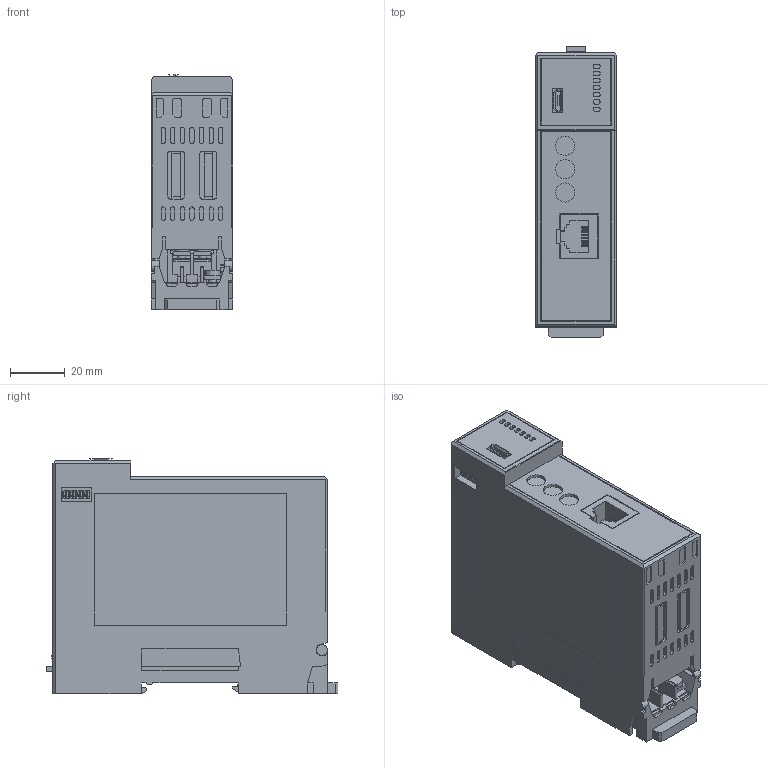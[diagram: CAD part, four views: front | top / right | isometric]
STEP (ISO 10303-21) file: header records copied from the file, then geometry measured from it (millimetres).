
FILE_DESCRIPTION (( 'STEP AP203' ), '1' );
FILE_NAME ('QMC1-MT_230518.STEP', '2023-05-18T07:48:13', ( '' ), ( '' ), 'SwSTEP 2.0', 'SolidWorks 2022', '' );
FILE_SCHEMA (( 'CONFIG_CONTROL_DESIGN' ));
Length unit declared in the file: millimetre
Products named in the file (1): QMC1-MT_230518
Bounding box: 29.8 x 106.35 x 85.95 mm (x, y, z)
Volume: 219867.4 mm3; surface area: 38934.9 mm2
Topology: 1 solids, 1 shells, 1185 faces, 3136 edges, 2062 vertices
Faces by surface type: plane 924, cylinder 257, torus 4
Entity records: 36366 total; most frequent: CARTESIAN_POINT 6489, ORIENTED_EDGE 6272, DIRECTION 5941, EDGE_CURVE 3136, LINE 2633, VECTOR 2633, VERTEX_POINT 2062, AXIS2_PLACEMENT_3D 1654
